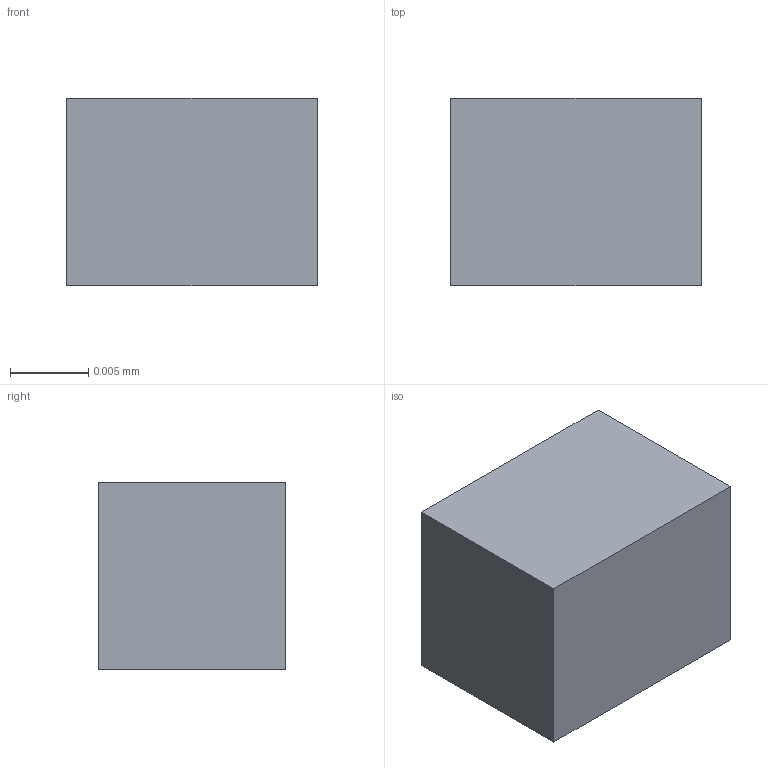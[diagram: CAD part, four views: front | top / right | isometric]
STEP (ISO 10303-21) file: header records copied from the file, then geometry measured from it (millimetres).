
FILE_DESCRIPTION(('FreeCAD Model'),'2;1');
FILE_NAME('/home/bn/Bureau/meshSG/exemple_patho/ShapeInCube.step', '2014-11-25T15:59:48',('FreeCAD'),('FreeCAD'), 'Open CASCADE STEP processor 6.7','FreeCAD','Unknown');
FILE_SCHEMA(('AUTOMOTIVE_DESIGN_CC2 { 1 2 10303 214 -1 1 5 4 }'));
Length unit declared in the file: metre
Products named in the file (2): Packing; Air
Bounding box: 0.02 x 0.01 x 0.01 mm (x, y, z)
Volume: 0 mm3; surface area: 0 mm2
Topology: 2 solids, 3 shells, 12 faces, 26 edges, 16 vertices
Faces by surface type: sphere 6, plane 6
Entity records: 631 total; most frequent: DIRECTION 102, CARTESIAN_POINT 95, LINE 56, VECTOR 56, ORIENTED_EDGE 44, PCURVE 44, DEFINITIONAL_REPRESENTATION 44, AXIS2_PLACEMENT_3D 23
